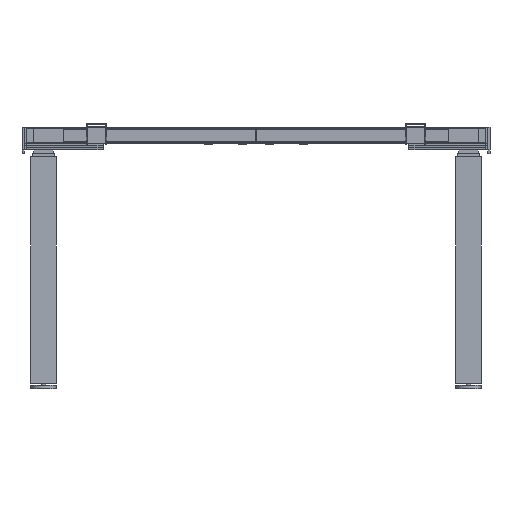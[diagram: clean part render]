
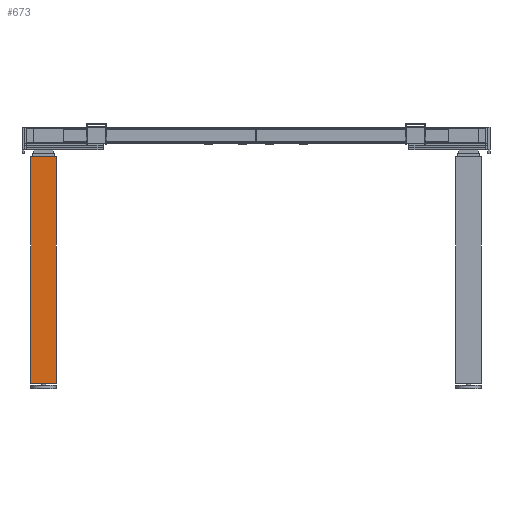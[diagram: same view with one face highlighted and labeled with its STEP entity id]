
A CAD part, front view. The second image highlights one B-rep face of the part: STEP entity #673.
In plain terms, the highlighted planar face has unit normal (0, -1, 0).
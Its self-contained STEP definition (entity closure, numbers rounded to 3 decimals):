
#673 = ADVANCED_FACE( '', ( #1376 ), #1377, .F. );
#1376 = FACE_OUTER_BOUND( '', #2174, .T. );
#1377 = PLANE( '', #2175 );
#2174 = EDGE_LOOP( '', ( #3502, #3503, #3504, #3505 ) );
#2175 = AXIS2_PLACEMENT_3D( '', #3506, #3507, #3508 );
#3502 = ORIENTED_EDGE( '', *, *, #4802, .T. );
#3503 = ORIENTED_EDGE( '', *, *, #4823, .F. );
#3504 = ORIENTED_EDGE( '', *, *, #4528, .F. );
#3505 = ORIENTED_EDGE( '', *, *, #4689, .T. );
#3506 = CARTESIAN_POINT( '', ( 30., -22., 545.9 ) );
#3507 = DIRECTION( '', ( 0., 1., 0. ) );
#3508 = DIRECTION( '', ( 0., 0., 1. ) );
#4528 = EDGE_CURVE( '', #5351, #5353, #5354, .T. );
#4689 = EDGE_CURVE( '', #5351, #5611, #5613, .T. );
#4802 = EDGE_CURVE( '', #5611, #5776, #5778, .T. );
#4823 = EDGE_CURVE( '', #5353, #5776, #5805, .T. );
#5351 = VERTEX_POINT( '', #6493 );
#5353 = VERTEX_POINT( '', #6496 );
#5354 = LINE( '', #6497, #6498 );
#5611 = VERTEX_POINT( '', #6854 );
#5613 = LINE( '', #6857, #6858 );
#5776 = VERTEX_POINT( '', #7084 );
#5778 = LINE( '', #7087, #7088 );
#5805 = LINE( '', #7125, #7126 );
#6493 = CARTESIAN_POINT( '', ( 30., -22., 545.9 ) );
#6496 = CARTESIAN_POINT( '', ( 30., -22., 12.9 ) );
#6497 = CARTESIAN_POINT( '', ( 30., -22., 545.9 ) );
#6498 = VECTOR( '', #7649, 1000. );
#6854 = CARTESIAN_POINT( '', ( -30., -22., 545.9 ) );
#6857 = CARTESIAN_POINT( '', ( 30., -22., 545.9 ) );
#6858 = VECTOR( '', #7819, 1000. );
#7084 = CARTESIAN_POINT( '', ( -30., -22., 12.9 ) );
#7087 = CARTESIAN_POINT( '', ( -30., -22., 545.9 ) );
#7088 = VECTOR( '', #7932, 1000. );
#7125 = CARTESIAN_POINT( '', ( 30., -22., 12.9 ) );
#7126 = VECTOR( '', #7949, 1000. );
#7649 = DIRECTION( '', ( 0., 0., -1. ) );
#7819 = DIRECTION( '', ( -1., 0., 0. ) );
#7932 = DIRECTION( '', ( 0., 0., -1. ) );
#7949 = DIRECTION( '', ( -1., 0., 0. ) );
